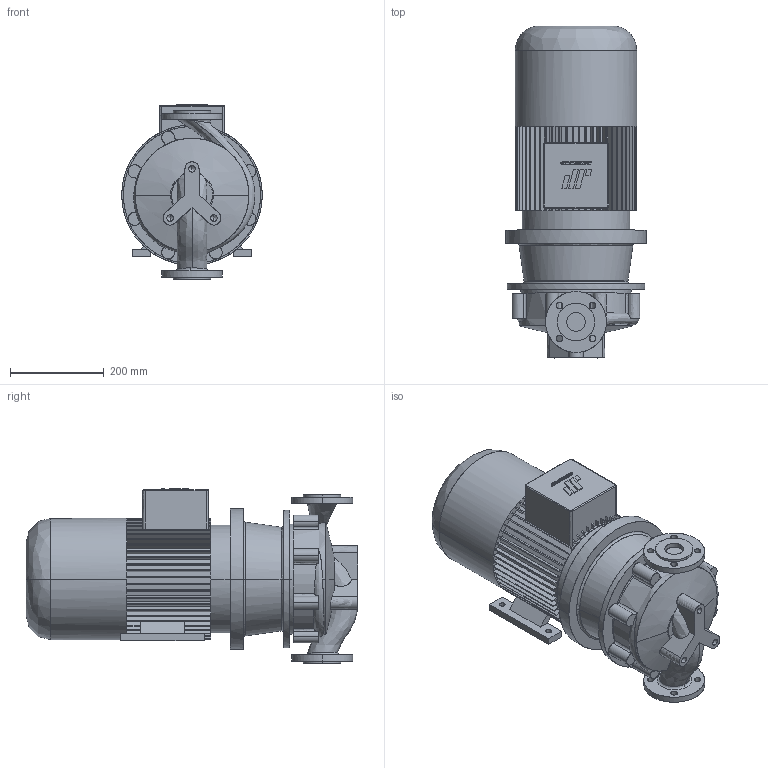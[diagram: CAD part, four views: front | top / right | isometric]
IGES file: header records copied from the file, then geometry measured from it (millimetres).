
Start section: CombiLine
Global section: file name: CLB_40-200_IEC132S.igs; native system:  By UGS Corp.; preprocessor: XPlus GENERIC/IGES 3.0; author: Stageplaats; organization: Johnson Pump Water B.V.; date: 20070712.152111; units: millimetre
Bounding box: 300 x 708.5 x 373 mm (x, y, z)
Surface area: 1151069.4 mm2 (no closed solid volume)
Topology: 0 solids, 0 shells, 582 faces, 3544 edges, 3538 vertices
Faces by surface type: bspline 582
